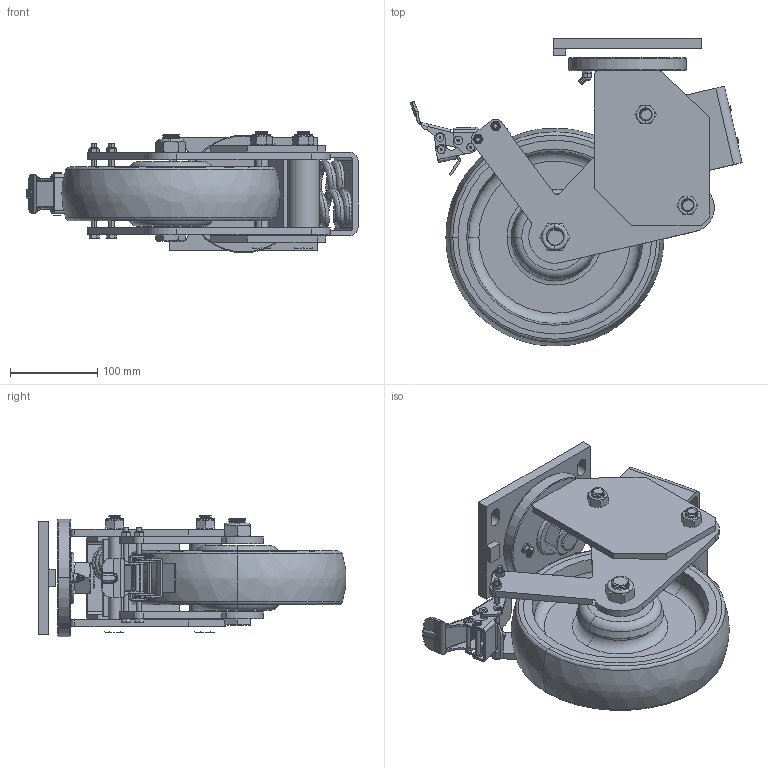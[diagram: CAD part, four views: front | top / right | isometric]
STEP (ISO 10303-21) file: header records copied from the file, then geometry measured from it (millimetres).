
FILE_DESCRIPTION((''),'2;1');
FILE_NAME('PRT0004','2025-09-13T16:41:21',('Administrator'),(''),'CREO PARAMETRIC BY PTC INC, 2022124','CREO PARAMETRIC BY PTC INC, 2022124','');
FILE_SCHEMA(('AUTOMOTIVE_DESIGN { 1 0 10303 214 1 1 1 1 }'));
Length unit declared in the file: millimetre
Products named in the file (1): PRT0004
Bounding box: 380.78 x 352.52 x 139.5 mm (x, y, z)
Surface area: 592564.9 mm2 (no closed solid volume)
Topology: 0 solids, 77 shells, 483 faces, 1656 edges, 1222 vertices
Faces by surface type: plane 230, cylinder 102, cone 75, torus 39, bspline 37
Entity records: 28541 total; most frequent: CARTESIAN_POINT 11218, DIRECTION 2866, ORIENTED_EDGE 2502, EDGE_CURVE 1655, VERTEX_POINT 1222, AXIS2_PLACEMENT_3D 1103, VECTOR 657, LINE 657
